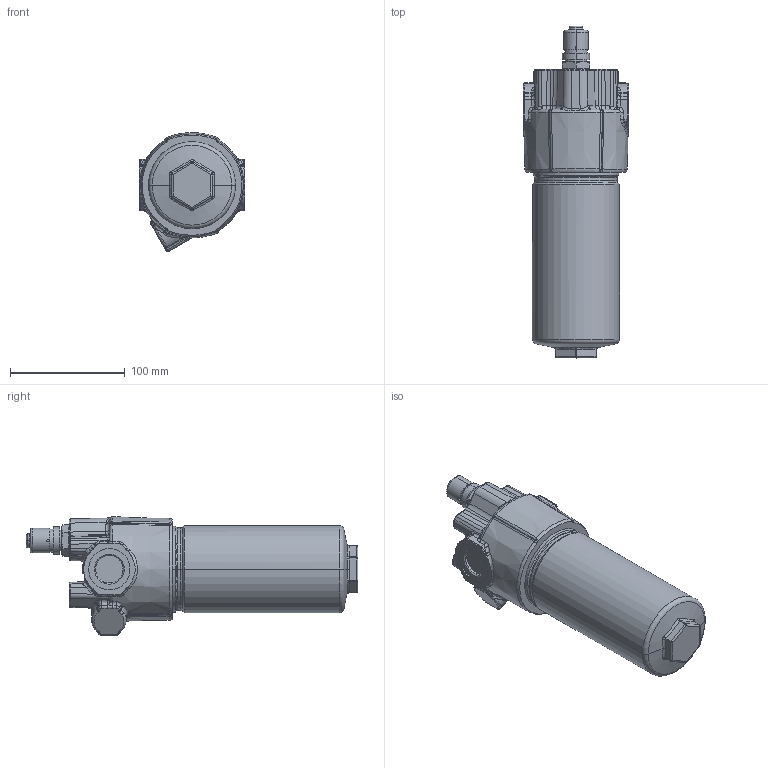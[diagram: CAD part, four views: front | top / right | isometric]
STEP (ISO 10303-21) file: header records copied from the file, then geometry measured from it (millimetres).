
FILE_DESCRIPTION((''),'2;1');
FILE_NAME('__MERGE_','2019-05-23T',('a.budig'),(''),'PRO/ENGINEER BY PARAMETRIC TECHNOLOGY CORPORATION, 2015110','PRO/ENGINEER BY PARAMETRIC TECHNOLOGY CORPORATION, 2015110','');
FILE_SCHEMA(('AUTOMOTIVE_DESIGN { 1 0 10303 214 1 1 1 1 }'));
Length unit declared in the file: millimetre
Products named in the file (1): __MERGE_
Bounding box: 92 x 289.7 x 103.67 mm (x, y, z)
Volume: 1224259.5 mm3; surface area: 82466.4 mm2
Topology: 1 solids, 1 shells, 645 faces, 1589 edges, 928 vertices
Faces by surface type: cylinder 210, bspline 185, plane 126, torus 54, cone 38, sphere 32
Entity records: 31328 total; most frequent: CARTESIAN_POINT 13044, ORIENTED_EDGE 3104, DIRECTION 2442, EDGE_CURVE 1552, AXIS2_PLACEMENT_3D 989, VERTEX_POINT 928, EDGE_LOOP 664, FILL_AREA_STYLE_COLOUR 656
